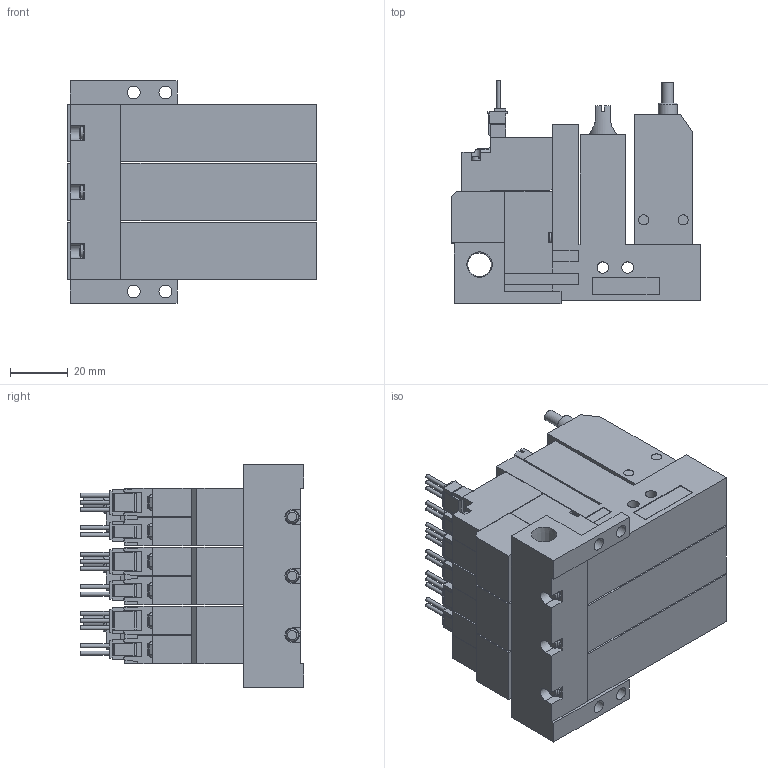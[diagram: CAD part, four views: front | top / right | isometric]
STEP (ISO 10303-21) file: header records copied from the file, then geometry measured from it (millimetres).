
FILE_DESCRIPTION(('STEP AP203'),'1');
FILE_NAME('ABS_ABPL5WLR303.stp','2025-02-18T23:12:50',(' '),(' '),'Spatial InterOp 3D',' ',' ');
FILE_SCHEMA(('CONFIG_CONTROL_DESIGN'));
Length unit declared in the file: millimetre
Products named in the file (5): BMC22M※※※※ABS_ABPL5WLR303; Solenoid valve W; Pressure sensor ABSL; Unit L; Base MR30R
Assembly tree (10 placements, depth 2):
  BMC22M※※※※ABS_ABPL5WLR303
    Solenoid valve W  x3
    Pressure sensor ABSL  x3
    Unit L  x3
    Base MR30R
Bounding box: 86.6 x 77.45 x 77 mm (x, y, z)
Volume: 273252 mm3; surface area: 76692.1 mm2
Topology: 10 solids, 10 shells, 1089 faces, 2918 edges, 1927 vertices
Faces by surface type: plane 920, cylinder 134, cone 23, torus 12
Full cylindrical faces by diameter (mm): 1.4 x15, 2.5 x3, 3 x12, 3.5 x18, 3.6 x3, 4 x9, 4.134 x3, 4.5 x4, 5.2 x3, 6 x3, 6.5 x3, 6.6 x3, 8.279 x1
Entity records: 12655 total; most frequent: CARTESIAN_POINT 2354, DIRECTION 2010, ORIENTED_EDGE 2010, EDGE_CURVE 1005, LINE 830, VECTOR 830, VERTEX_POINT 699, AXIS2_PLACEMENT_3D 590
